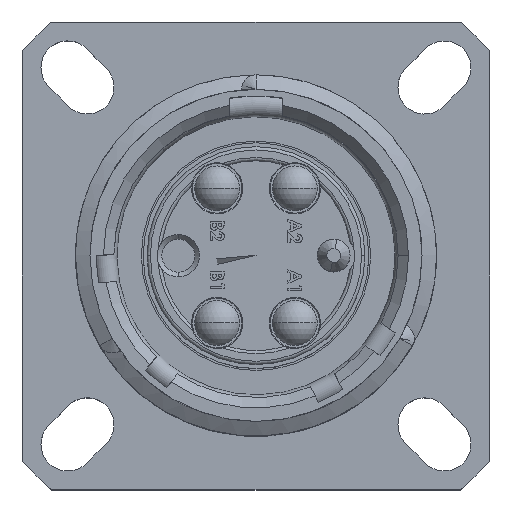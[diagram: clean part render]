
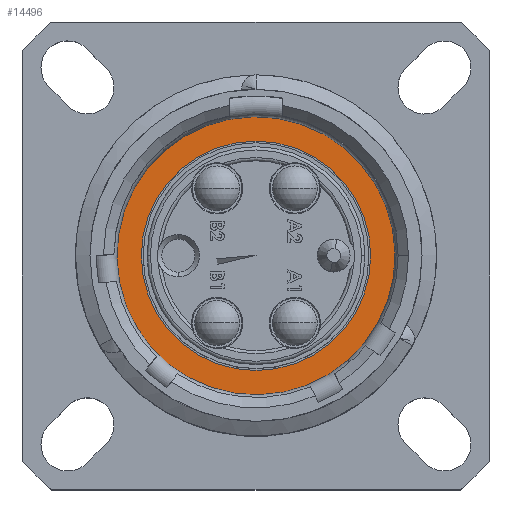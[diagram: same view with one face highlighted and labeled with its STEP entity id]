
A CAD part, top view. The second image highlights one B-rep face of the part: STEP entity #14496.
In plain terms, the highlighted planar face has unit normal (0, 0, 1).
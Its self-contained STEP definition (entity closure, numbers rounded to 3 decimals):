
#9 = DIRECTION ( 'NONE',  ( 0., 0., 1. ) ) ;
#339 = CIRCLE ( 'NONE', #8597, 7.01 ) ;
#1087 = EDGE_LOOP ( 'NONE', ( #16755, #4530 ) ) ;
#1095 = CARTESIAN_POINT ( 'NONE',  ( 7.01, 0., -15.24 ) ) ;
#1893 = FACE_BOUND ( 'NONE', #1087, .T. ) ;
#2377 = CARTESIAN_POINT ( 'NONE',  ( 0., 0., -15.24 ) ) ;
#3266 = DIRECTION ( 'NONE',  ( 0., 0., -1. ) ) ;
#3419 = ORIENTED_EDGE ( 'NONE', *, *, #11057, .T. ) ;
#3479 = CARTESIAN_POINT ( 'NONE',  ( 0., 0., -15.24 ) ) ;
#4530 = ORIENTED_EDGE ( 'NONE', *, *, #15410, .F. ) ;
#4726 = EDGE_CURVE ( 'NONE', #6660, #4754, #14186, .T. ) ;
#4754 = VERTEX_POINT ( 'NONE', #11482 ) ;
#5191 = CARTESIAN_POINT ( 'NONE',  ( 0., 0., -15.24 ) ) ;
#5604 = CARTESIAN_POINT ( 'NONE',  ( 9.843, 0., -15.24 ) ) ;
#6660 = VERTEX_POINT ( 'NONE', #1095 ) ;
#6920 = CARTESIAN_POINT ( 'NONE',  ( 0., 0., -15.24 ) ) ;
#8167 = AXIS2_PLACEMENT_3D ( 'NONE', #3479, #10188, #14392 ) ;
#8388 = AXIS2_PLACEMENT_3D ( 'NONE', #2377, #15199, #11245 ) ;
#8469 = DIRECTION ( 'NONE',  ( 1., 0., 0. ) ) ;
#8519 = DIRECTION ( 'NONE',  ( -1., 0., 0. ) ) ;
#8597 = AXIS2_PLACEMENT_3D ( 'NONE', #5191, #9, #14387 ) ;
#9139 = ORIENTED_EDGE ( 'NONE', *, *, #10849, .T. ) ;
#9521 = CARTESIAN_POINT ( 'NONE',  ( -9.843, 0., -15.24 ) ) ;
#9823 = VERTEX_POINT ( 'NONE', #9521 ) ;
#9899 = PLANE ( 'NONE',  #15395 ) ;
#10188 = DIRECTION ( 'NONE',  ( 0., 0., 1. ) ) ;
#10849 = EDGE_CURVE ( 'NONE', #9823, #13098, #15809, .T. ) ;
#11057 = EDGE_CURVE ( 'NONE', #13098, #9823, #15276, .T. ) ;
#11245 = DIRECTION ( 'NONE',  ( 1., 0., 0. ) ) ;
#11438 = AXIS2_PLACEMENT_3D ( 'NONE', #6920, #13635, #8469 ) ;
#11482 = CARTESIAN_POINT ( 'NONE',  ( -7.01, 0., -15.24 ) ) ;
#12735 = FACE_OUTER_BOUND ( 'NONE', #16306, .T. ) ;
#13098 = VERTEX_POINT ( 'NONE', #5604 ) ;
#13635 = DIRECTION ( 'NONE',  ( 0., 0., 1. ) ) ;
#14186 = CIRCLE ( 'NONE', #8167, 7.01 ) ;
#14387 = DIRECTION ( 'NONE',  ( 1., 0., 0. ) ) ;
#14392 = DIRECTION ( 'NONE',  ( 1., 0., 0. ) ) ;
#14496 = ADVANCED_FACE ( 'NONE', ( #1893, #12735 ), #9899, .F. ) ;
#15059 = CARTESIAN_POINT ( 'NONE',  ( 0., 7.01, -15.24 ) ) ;
#15199 = DIRECTION ( 'NONE',  ( 0., 0., 1. ) ) ;
#15276 = CIRCLE ( 'NONE', #11438, 9.843 ) ;
#15395 = AXIS2_PLACEMENT_3D ( 'NONE', #15059, #3266, #8519 ) ;
#15410 = EDGE_CURVE ( 'NONE', #4754, #6660, #339, .T. ) ;
#15809 = CIRCLE ( 'NONE', #8388, 9.843 ) ;
#16306 = EDGE_LOOP ( 'NONE', ( #3419, #9139 ) ) ;
#16755 = ORIENTED_EDGE ( 'NONE', *, *, #4726, .F. ) ;
